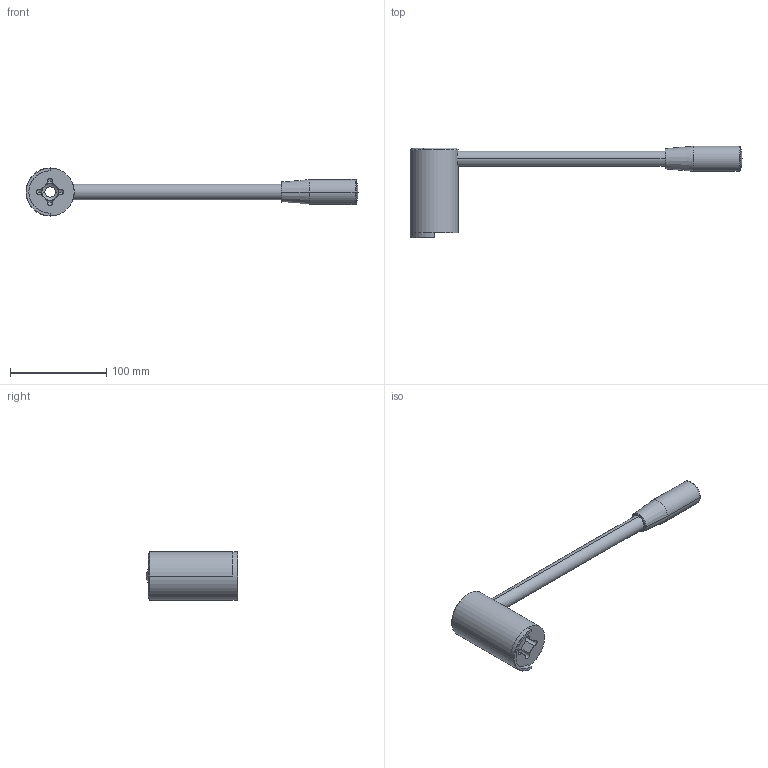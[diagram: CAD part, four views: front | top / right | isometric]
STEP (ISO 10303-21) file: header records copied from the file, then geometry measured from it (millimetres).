
FILE_DESCRIPTION((''),'2;1');
FILE_NAME('93510316550_ASM','2021-04-15T16:31:09',('alfio.taboni'),('CDM Tecnoconsulting'),'CREO PARAMETRIC BY PTC INC, 2020053','CREO PARAMETRIC BY PTC INC, 2020053','');
FILE_SCHEMA(('CONFIG_CONTROL_DESIGN','SHAPE_APPEARANCE_LAYERS_GROUPS'));
Length unit declared in the file: millimetre
Products named in the file (5): 93610316550; 93710006540; 93910316550_ASM; 9381000M540; 93510316550_ASM
Assembly tree (4 placements, depth 3):
  93510316550_ASM
    93910316550_ASM
      93610316550
      93710006540
    9381000M540
Bounding box: 345 x 95 x 50 mm (x, y, z)
Volume: 233260.9 mm3; surface area: 45174.8 mm2
Topology: 3 solids, 3 shells, 188 faces, 506 edges, 320 vertices
Faces by surface type: plane 126, cylinder 29, cone 23, torus 8, sphere 2
Entity records: 6070 total; most frequent: CARTESIAN_POINT 1087, ORIENTED_EDGE 988, DIRECTION 979, EDGE_CURVE 494, VECTOR 371, LINE 371, VERTEX_POINT 320, AXIS2_PLACEMENT_3D 304
